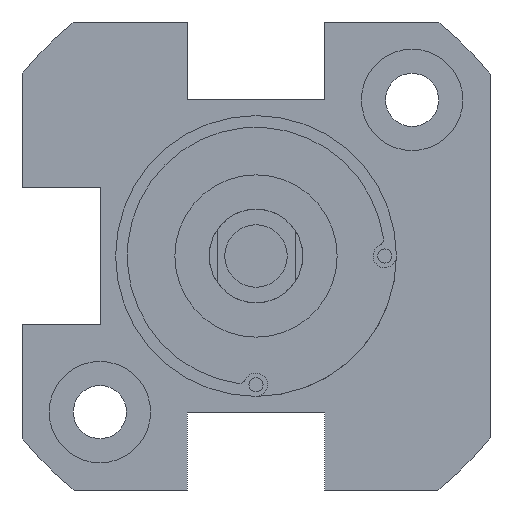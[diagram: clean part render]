
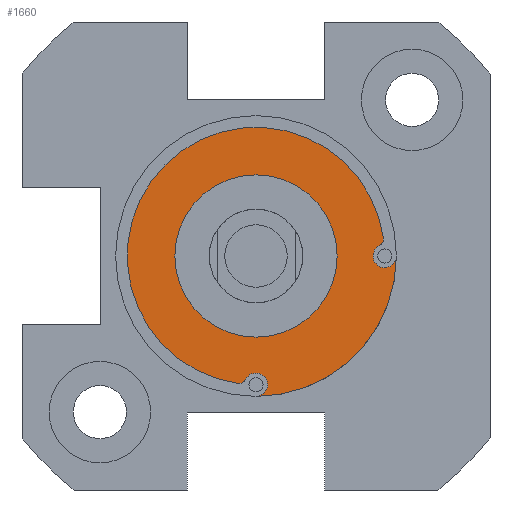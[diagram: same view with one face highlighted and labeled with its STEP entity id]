
A CAD part, front view. The second image highlights one B-rep face of the part: STEP entity #1660.
In plain terms, the highlighted planar face has unit normal (0, -1, 0).
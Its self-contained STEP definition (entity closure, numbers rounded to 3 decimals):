
#14 = CARTESIAN_POINT ( 'NONE',  ( -1.108, -31.5, -7.67 ) ) ;
#23 = DIRECTION ( 'NONE',  ( 0., -1., 0. ) ) ;
#42 = DIRECTION ( 'NONE',  ( 0., 1., 0. ) ) ;
#77 = DIRECTION ( 'NONE',  ( 0., -1., 0. ) ) ;
#95 = EDGE_CURVE ( 'NONE', #2855, #2506, #1687, .T. ) ;
#125 = CARTESIAN_POINT ( 'NONE',  ( 0., -31.5, 0. ) ) ;
#223 = DIRECTION ( 'NONE',  ( 0., 1., 0. ) ) ;
#227 = AXIS2_PLACEMENT_3D ( 'NONE', #2241, #1989, #1273 ) ;
#476 = AXIS2_PLACEMENT_3D ( 'NONE', #3058, #3085, #2789 ) ;
#508 = AXIS2_PLACEMENT_3D ( 'NONE', #1563, #2518, #2784 ) ;
#514 = DIRECTION ( 'NONE',  ( 0., 1., 0. ) ) ;
#544 = CARTESIAN_POINT ( 'NONE',  ( -1.108, -31.5, -8.17 ) ) ;
#554 = ORIENTED_EDGE ( 'NONE', *, *, #95, .F. ) ;
#612 = DIRECTION ( 'NONE',  ( 0., 0., 1. ) ) ;
#613 = ORIENTED_EDGE ( 'NONE', *, *, #1807, .F. ) ;
#629 = ORIENTED_EDGE ( 'NONE', *, *, #2727, .T. ) ;
#775 = CARTESIAN_POINT ( 'NONE',  ( 7.902, -31.5, 0.665 ) ) ;
#788 = VERTEX_POINT ( 'NONE', #2103 ) ;
#807 = FACE_BOUND ( 'NONE', #1963, .T. ) ;
#863 = PLANE ( 'NONE',  #2267 ) ;
#878 = CARTESIAN_POINT ( 'NONE',  ( 9., -31.5, 0. ) ) ;
#947 = VERTEX_POINT ( 'NONE', #775 ) ;
#996 = VERTEX_POINT ( 'NONE', #2079 ) ;
#1014 = AXIS2_PLACEMENT_3D ( 'NONE', #1775, #2505, #1293 ) ;
#1048 = ORIENTED_EDGE ( 'NONE', *, *, #3163, .T. ) ;
#1050 = CIRCLE ( 'NONE', #1624, 0.75 ) ;
#1074 = ORIENTED_EDGE ( 'NONE', *, *, #1452, .T. ) ;
#1088 = CIRCLE ( 'NONE', #2742, 5.2 ) ;
#1182 = AXIS2_PLACEMENT_3D ( 'NONE', #1544, #42, #2766 ) ;
#1203 = ORIENTED_EDGE ( 'NONE', *, *, #1568, .T. ) ;
#1231 = ORIENTED_EDGE ( 'NONE', *, *, #1994, .T. ) ;
#1249 = CIRCLE ( 'NONE', #2398, 0.5 ) ;
#1256 = CIRCLE ( 'NONE', #1760, 0.5 ) ;
#1261 = DIRECTION ( 'NONE',  ( 0., 0., 1. ) ) ;
#1271 = VERTEX_POINT ( 'NONE', #3192 ) ;
#1273 = DIRECTION ( 'NONE',  ( 0., 0., 1. ) ) ;
#1293 = DIRECTION ( 'NONE',  ( 0., 0., -1. ) ) ;
#1326 = CIRCLE ( 'NONE', #1182, 5.2 ) ;
#1329 = CARTESIAN_POINT ( 'NONE',  ( 0., -31.5, -8.25 ) ) ;
#1340 = EDGE_CURVE ( 'NONE', #2006, #1271, #1571, .T. ) ;
#1353 = VERTEX_POINT ( 'NONE', #2769 ) ;
#1452 = EDGE_CURVE ( 'NONE', #947, #2075, #1256, .T. ) ;
#1471 = EDGE_LOOP ( 'NONE', ( #1231, #1048, #1074, #613, #629, #1768, #1203, #554 ) ) ;
#1544 = CARTESIAN_POINT ( 'NONE',  ( 0., -31.5, 0. ) ) ;
#1563 = CARTESIAN_POINT ( 'NONE',  ( 0., -31.5, 0. ) ) ;
#1568 = EDGE_CURVE ( 'NONE', #1271, #2506, #1050, .T. ) ;
#1571 = CIRCLE ( 'NONE', #1014, 0.5 ) ;
#1590 = DIRECTION ( 'NONE',  ( 0., 1., 0. ) ) ;
#1624 = AXIS2_PLACEMENT_3D ( 'NONE', #1329, #1590, #612 ) ;
#1660 = ADVANCED_FACE ( 'NONE', ( #2993, #807 ), #863, .T. ) ;
#1687 = CIRCLE ( 'NONE', #508, 9. ) ;
#1712 = CIRCLE ( 'NONE', #2775, 8.25 ) ;
#1729 = DIRECTION ( 'NONE',  ( 0., 0., -1. ) ) ;
#1732 = CARTESIAN_POINT ( 'NONE',  ( 0., -31.5, -5.2 ) ) ;
#1760 = AXIS2_PLACEMENT_3D ( 'NONE', #2052, #77, #2284 ) ;
#1768 = ORIENTED_EDGE ( 'NONE', *, *, #1340, .T. ) ;
#1775 = CARTESIAN_POINT ( 'NONE',  ( -1.108, -31.5, -7.67 ) ) ;
#1807 = EDGE_CURVE ( 'NONE', #996, #2075, #1712, .T. ) ;
#1910 = CARTESIAN_POINT ( 'NONE',  ( 0., -31.5, -9. ) ) ;
#1963 = EDGE_LOOP ( 'NONE', ( #2975, #2328 ) ) ;
#1989 = DIRECTION ( 'NONE',  ( 0., 1., 0. ) ) ;
#1994 = EDGE_CURVE ( 'NONE', #2855, #1353, #2404, .T. ) ;
#2006 = VERTEX_POINT ( 'NONE', #544 ) ;
#2024 = CARTESIAN_POINT ( 'NONE',  ( 0., -31.5, 0. ) ) ;
#2052 = CARTESIAN_POINT ( 'NONE',  ( 7.67, -31.5, 1.108 ) ) ;
#2075 = VERTEX_POINT ( 'NONE', #3071 ) ;
#2079 = CARTESIAN_POINT ( 'NONE',  ( -1.179, -31.5, -8.165 ) ) ;
#2085 = VERTEX_POINT ( 'NONE', #1732 ) ;
#2103 = CARTESIAN_POINT ( 'NONE',  ( 0., -31.5, 5.2 ) ) ;
#2241 = CARTESIAN_POINT ( 'NONE',  ( 8.25, -31.5, 0. ) ) ;
#2267 = AXIS2_PLACEMENT_3D ( 'NONE', #125, #2647, #2634 ) ;
#2284 = DIRECTION ( 'NONE',  ( 0., 0., -1. ) ) ;
#2328 = ORIENTED_EDGE ( 'NONE', *, *, #2831, .T. ) ;
#2398 = AXIS2_PLACEMENT_3D ( 'NONE', #14, #23, #1729 ) ;
#2404 = CIRCLE ( 'NONE', #476, 0.75 ) ;
#2455 = DIRECTION ( 'NONE',  ( 0., 0., 1. ) ) ;
#2505 = DIRECTION ( 'NONE',  ( 0., -1., 0. ) ) ;
#2506 = VERTEX_POINT ( 'NONE', #1910 ) ;
#2518 = DIRECTION ( 'NONE',  ( 0., 1., 0. ) ) ;
#2634 = DIRECTION ( 'NONE',  ( 0., 0., 1. ) ) ;
#2647 = DIRECTION ( 'NONE',  ( 0., -1., 0. ) ) ;
#2727 = EDGE_CURVE ( 'NONE', #996, #2006, #1249, .T. ) ;
#2731 = EDGE_CURVE ( 'NONE', #2085, #788, #1088, .T. ) ;
#2742 = AXIS2_PLACEMENT_3D ( 'NONE', #2024, #514, #1261 ) ;
#2766 = DIRECTION ( 'NONE',  ( 0., 0., 1. ) ) ;
#2769 = CARTESIAN_POINT ( 'NONE',  ( 8.25, -31.5, -0.75 ) ) ;
#2775 = AXIS2_PLACEMENT_3D ( 'NONE', #3188, #223, #2455 ) ;
#2784 = DIRECTION ( 'NONE',  ( 0., 0., 1. ) ) ;
#2789 = DIRECTION ( 'NONE',  ( 0., 0., 1. ) ) ;
#2831 = EDGE_CURVE ( 'NONE', #788, #2085, #1326, .T. ) ;
#2855 = VERTEX_POINT ( 'NONE', #878 ) ;
#2867 = CIRCLE ( 'NONE', #227, 0.75 ) ;
#2975 = ORIENTED_EDGE ( 'NONE', *, *, #2731, .T. ) ;
#2993 = FACE_OUTER_BOUND ( 'NONE', #1471, .T. ) ;
#3058 = CARTESIAN_POINT ( 'NONE',  ( 8.25, -31.5, 0. ) ) ;
#3071 = CARTESIAN_POINT ( 'NONE',  ( 8.165, -31.5, 1.179 ) ) ;
#3085 = DIRECTION ( 'NONE',  ( 0., 1., 0. ) ) ;
#3163 = EDGE_CURVE ( 'NONE', #1353, #947, #2867, .T. ) ;
#3188 = CARTESIAN_POINT ( 'NONE',  ( 0., -31.5, 0. ) ) ;
#3192 = CARTESIAN_POINT ( 'NONE',  ( -0.665, -31.5, -7.902 ) ) ;
